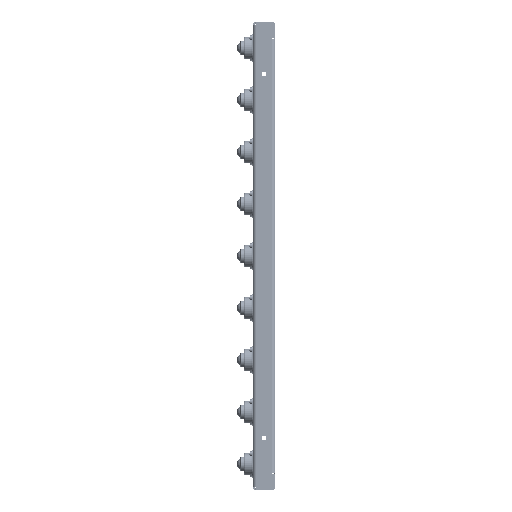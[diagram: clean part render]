
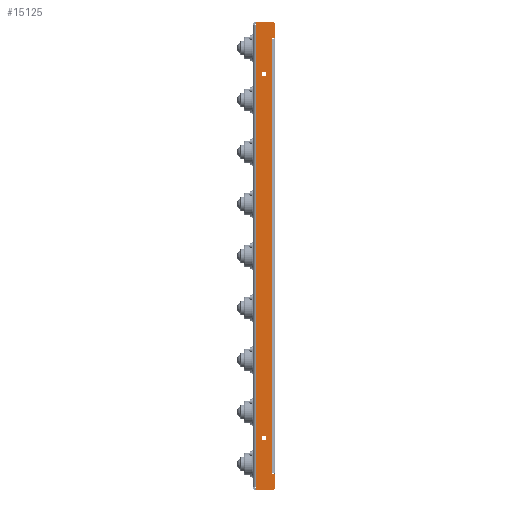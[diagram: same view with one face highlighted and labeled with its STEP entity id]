
A CAD part, left-side view. The second image highlights one B-rep face of the part: STEP entity #15125.
In plain terms, the highlighted planar face has unit normal (-1, 0, 0) as drawn and (1, 0, 0) by its records, which use the part's own axes.
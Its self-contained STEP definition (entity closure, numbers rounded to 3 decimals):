
#2028=FACE_BOUND('',#6785,.T.);
#2029=FACE_BOUND('',#6786,.T.);
#3146=CIRCLE('',#16305,4.5);
#3150=CIRCLE('',#16311,4.5);
#3172=CIRCLE('',#16359,1.);
#3174=CIRCLE('',#16364,1.);
#3178=CIRCLE('',#16373,6.4);
#3179=CIRCLE('',#16374,2.);
#3180=CIRCLE('',#16375,2.);
#3181=CIRCLE('',#16376,6.4);
#6202=FACE_OUTER_BOUND('',#6784,.T.);
#6784=EDGE_LOOP('',(#13041,#13042,#13043,#13044,#13045,#13046,#13047,#13048,
#13049,#13050,#13051,#13052,#13053,#13054,#13055,#13056,#13057,#13058,#13059,
#13060));
#6785=EDGE_LOOP('',(#13061));
#6786=EDGE_LOOP('',(#13062));
#8011=LINE('',#24697,#8749);
#8016=LINE('',#24706,#8754);
#8021=LINE('',#24722,#8759);
#8022=LINE('',#24723,#8760);
#8023=LINE('',#24725,#8761);
#8024=LINE('',#24729,#8762);
#8025=LINE('',#24733,#8763);
#8026=LINE('',#24735,#8764);
#8027=LINE('',#24737,#8765);
#8028=LINE('',#24741,#8766);
#8029=LINE('',#24744,#8767);
#8030=LINE('',#24746,#8768);
#8031=LINE('',#24748,#8769);
#8032=LINE('',#24749,#8770);
#8749=VECTOR('',#19856,10.);
#8754=VECTOR('',#19863,10.);
#8759=VECTOR('',#19878,10.);
#8760=VECTOR('',#19879,10.);
#8761=VECTOR('',#19880,10.);
#8762=VECTOR('',#19883,10.);
#8763=VECTOR('',#19886,10.);
#8764=VECTOR('',#19887,10.);
#8765=VECTOR('',#19888,10.);
#8766=VECTOR('',#19891,10.);
#8767=VECTOR('',#19894,10.);
#8768=VECTOR('',#19895,10.);
#8769=VECTOR('',#19896,10.);
#8770=VECTOR('',#19897,10.);
#9615=VERTEX_POINT('',#24309);
#9619=VERTEX_POINT('',#24321);
#9691=VERTEX_POINT('',#24604);
#9692=VERTEX_POINT('',#24605);
#9701=VERTEX_POINT('',#24665);
#9702=VERTEX_POINT('',#24666);
#9707=VERTEX_POINT('',#24696);
#9710=VERTEX_POINT('',#24704);
#9715=VERTEX_POINT('',#24720);
#9716=VERTEX_POINT('',#24721);
#9717=VERTEX_POINT('',#24724);
#9718=VERTEX_POINT('',#24726);
#9719=VERTEX_POINT('',#24728);
#9720=VERTEX_POINT('',#24730);
#9721=VERTEX_POINT('',#24732);
#9722=VERTEX_POINT('',#24734);
#9723=VERTEX_POINT('',#24736);
#9724=VERTEX_POINT('',#24738);
#9725=VERTEX_POINT('',#24740);
#9726=VERTEX_POINT('',#24742);
#9727=VERTEX_POINT('',#24745);
#9728=VERTEX_POINT('',#24747);
#10913=EDGE_CURVE('',#9615,#9615,#3146,.T.);
#10919=EDGE_CURVE('',#9619,#9619,#3150,.T.);
#11014=EDGE_CURVE('',#9691,#9692,#3172,.T.);
#11026=EDGE_CURVE('',#9701,#9702,#3174,.T.);
#11032=EDGE_CURVE('',#9707,#9702,#8011,.T.);
#11037=EDGE_CURVE('',#9691,#9710,#8016,.T.);
#11044=EDGE_CURVE('',#9715,#9716,#8021,.T.);
#11045=EDGE_CURVE('',#9716,#9692,#8022,.T.);
#11046=EDGE_CURVE('',#9710,#9717,#8023,.T.);
#11047=EDGE_CURVE('',#9718,#9717,#3178,.T.);
#11048=EDGE_CURVE('',#9719,#9718,#8024,.T.);
#11049=EDGE_CURVE('',#9720,#9719,#3179,.T.);
#11050=EDGE_CURVE('',#9720,#9721,#8025,.T.);
#11051=EDGE_CURVE('',#9721,#9722,#8026,.T.);
#11052=EDGE_CURVE('',#9722,#9723,#8027,.T.);
#11053=EDGE_CURVE('',#9724,#9723,#3180,.T.);
#11054=EDGE_CURVE('',#9724,#9725,#8028,.T.);
#11055=EDGE_CURVE('',#9726,#9725,#3181,.T.);
#11056=EDGE_CURVE('',#9726,#9707,#8029,.T.);
#11057=EDGE_CURVE('',#9701,#9727,#8030,.T.);
#11058=EDGE_CURVE('',#9727,#9728,#8031,.T.);
#11059=EDGE_CURVE('',#9728,#9715,#8032,.T.);
#13041=ORIENTED_EDGE('',*,*,#11044,.T.);
#13042=ORIENTED_EDGE('',*,*,#11045,.T.);
#13043=ORIENTED_EDGE('',*,*,#11014,.F.);
#13044=ORIENTED_EDGE('',*,*,#11037,.T.);
#13045=ORIENTED_EDGE('',*,*,#11046,.T.);
#13046=ORIENTED_EDGE('',*,*,#11047,.F.);
#13047=ORIENTED_EDGE('',*,*,#11048,.F.);
#13048=ORIENTED_EDGE('',*,*,#11049,.F.);
#13049=ORIENTED_EDGE('',*,*,#11050,.T.);
#13050=ORIENTED_EDGE('',*,*,#11051,.T.);
#13051=ORIENTED_EDGE('',*,*,#11052,.T.);
#13052=ORIENTED_EDGE('',*,*,#11053,.F.);
#13053=ORIENTED_EDGE('',*,*,#11054,.T.);
#13054=ORIENTED_EDGE('',*,*,#11055,.F.);
#13055=ORIENTED_EDGE('',*,*,#11056,.T.);
#13056=ORIENTED_EDGE('',*,*,#11032,.T.);
#13057=ORIENTED_EDGE('',*,*,#11026,.F.);
#13058=ORIENTED_EDGE('',*,*,#11057,.T.);
#13059=ORIENTED_EDGE('',*,*,#11058,.T.);
#13060=ORIENTED_EDGE('',*,*,#11059,.T.);
#13061=ORIENTED_EDGE('',*,*,#10913,.T.);
#13062=ORIENTED_EDGE('',*,*,#10919,.T.);
#14631=PLANE('',#16372);
#15125=ADVANCED_FACE('',(#6202,#2028,#2029),#14631,.T.);
#16305=AXIS2_PLACEMENT_3D('',#24310,#19659,#19660);
#16311=AXIS2_PLACEMENT_3D('',#24322,#19673,#19674);
#16359=AXIS2_PLACEMENT_3D('',#24606,#19832,#19833);
#16364=AXIS2_PLACEMENT_3D('',#24667,#19848,#19849);
#16372=AXIS2_PLACEMENT_3D('',#24719,#19876,#19877);
#16373=AXIS2_PLACEMENT_3D('',#24727,#19881,#19882);
#16374=AXIS2_PLACEMENT_3D('',#24731,#19884,#19885);
#16375=AXIS2_PLACEMENT_3D('',#24739,#19889,#19890);
#16376=AXIS2_PLACEMENT_3D('',#24743,#19892,#19893);
#19659=DIRECTION('center_axis',(-1.,0.,0.));
#19660=DIRECTION('ref_axis',(0.,0.,-1.));
#19673=DIRECTION('center_axis',(-1.,0.,0.));
#19674=DIRECTION('ref_axis',(0.,0.,-1.));
#19832=DIRECTION('center_axis',(1.,0.,0.));
#19833=DIRECTION('ref_axis',(0.,0.707,-0.707));
#19848=DIRECTION('center_axis',(1.,0.,0.));
#19849=DIRECTION('ref_axis',(0.,0.707,0.707));
#19856=DIRECTION('',(0.,1.,0.));
#19863=DIRECTION('',(0.,-1.,0.));
#19876=DIRECTION('center_axis',(1.,0.,0.));
#19877=DIRECTION('ref_axis',(0.,0.,
1.));
#19878=DIRECTION('',(0.,1.,0.));
#19879=DIRECTION('',(0.,0.,-1.));
#19880=DIRECTION('',(0.,0.,-1.));
#19881=DIRECTION('center_axis',(-1.,0.,0.));
#19882=DIRECTION('ref_axis',(0.,-0.707,-0.707));
#19883=DIRECTION('',(0.,-1.,0.));
#19884=DIRECTION('center_axis',(-1.,0.,0.));
#19885=DIRECTION('ref_axis',(0.,0.707,-0.707));
#19886=DIRECTION('',(0.,0.,1.));
#19887=DIRECTION('',(0.,0.,1.));
#19888=DIRECTION('',(0.,0.,1.));
#19889=DIRECTION('center_axis',(-1.,0.,0.));
#19890=DIRECTION('ref_axis',(0.,0.707,0.707));
#19891=DIRECTION('',(0.,-1.,0.));
#19892=DIRECTION('center_axis',(-1.,0.,0.));
#19893=DIRECTION('ref_axis',(0.,-0.707,0.707));
#19894=DIRECTION('',(0.,0.,-1.));
#19895=DIRECTION('',(0.,0.,-1.));
#19896=DIRECTION('',(0.,-1.,0.));
#19897=DIRECTION('',(0.,0.,-1.));
#24309=CARTESIAN_POINT('',(450.,-18.3,354.5));
#24310=CARTESIAN_POINT('Origin',(450.,-18.3,350.));
#24321=CARTESIAN_POINT('',(450.,-18.3,-345.5));
#24322=CARTESIAN_POINT('Origin',(450.,-18.3,-350.));
#24604=CARTESIAN_POINT('',(450.,-34.39,-420.));
#24605=CARTESIAN_POINT('',(450.,-33.39,-419.));
#24606=CARTESIAN_POINT('Origin',(450.,-34.39,-419.));
#24665=CARTESIAN_POINT('',(450.,-33.39,419.));
#24666=CARTESIAN_POINT('',(450.,-34.39,420.));
#24667=CARTESIAN_POINT('Origin',(450.,-34.39,419.));
#24696=CARTESIAN_POINT('',(450.,-39.8,420.));
#24697=CARTESIAN_POINT('',(450.,-29.393,420.));
#24704=CARTESIAN_POINT('',(450.,-39.8,-420.));
#24706=CARTESIAN_POINT('',(450.,-26.188,-420.));
#24719=CARTESIAN_POINT('Origin',(450.,-18.987,0.));
#24720=CARTESIAN_POINT('',(450.,-33.4,-418.));
#24721=CARTESIAN_POINT('',(450.,-33.39,-418.));
#24722=CARTESIAN_POINT('',(450.,-29.393,-418.));
#24723=CARTESIAN_POINT('',(450.,-33.39,-209.));
#24724=CARTESIAN_POINT('',(450.,-39.8,-443.6));
#24725=CARTESIAN_POINT('',(450.,-39.8,450.));
#24726=CARTESIAN_POINT('',(450.,-33.4,-450.));
#24727=CARTESIAN_POINT('Origin',(450.,-33.4,-443.6));
#24728=CARTESIAN_POINT('',(450.,-5.2,-450.));
#24729=CARTESIAN_POINT('',(450.,1.827,-450.));
#24730=CARTESIAN_POINT('',(450.,-3.2,-448.));
#24731=CARTESIAN_POINT('Origin',(450.,-5.2,-448.));
#24732=CARTESIAN_POINT('',(450.,-3.2,-445.6));
#24733=CARTESIAN_POINT('',(450.,-3.2,0.));
#24734=CARTESIAN_POINT('',(450.,-3.2,445.6));
#24735=CARTESIAN_POINT('',(450.,-3.2,0.));
#24736=CARTESIAN_POINT('',(450.,-3.2,448.));
#24737=CARTESIAN_POINT('',(450.,-3.2,0.));
#24738=CARTESIAN_POINT('',(450.,-5.2,450.));
#24739=CARTESIAN_POINT('Origin',(450.,-5.2,448.));
#24740=CARTESIAN_POINT('',(450.,-33.4,450.));
#24741=CARTESIAN_POINT('',(450.,1.827,450.));
#24742=CARTESIAN_POINT('',(450.,-39.8,443.6));
#24743=CARTESIAN_POINT('Origin',(450.,-33.4,443.6));
#24744=CARTESIAN_POINT('',(450.,-39.8,450.));
#24745=CARTESIAN_POINT('',(450.,-33.39,418.));
#24746=CARTESIAN_POINT('',(450.,-33.39,210.));
#24747=CARTESIAN_POINT('',(450.,-33.4,418.));
#24748=CARTESIAN_POINT('',(450.,-26.188,418.));
#24749=CARTESIAN_POINT('',(450.,-33.4,-209.875));
